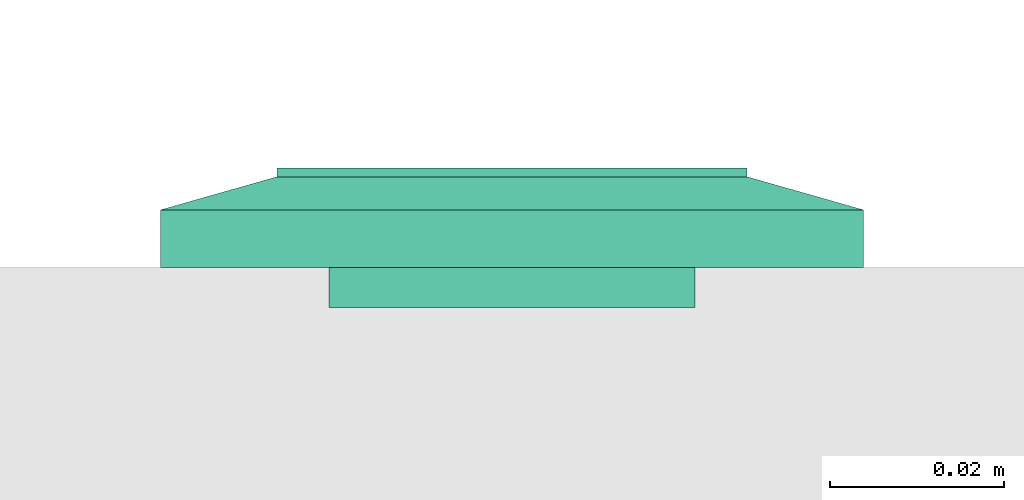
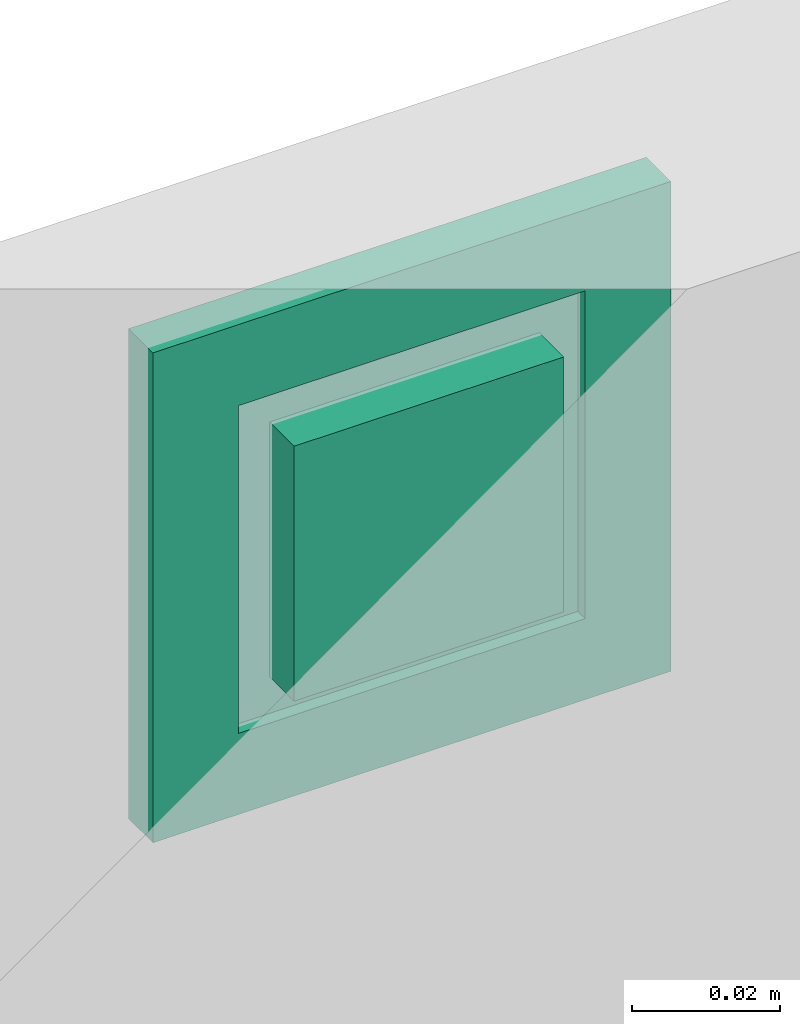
# One storey, part 89 of 153: 1 flow terminal.
"""IFC2X3 building model written with IfcOpenShell, lengths in metres."""

from ifc_helpers import new_model, entity, si_unit, converted_unit, derived_unit, direction, frame, origin, place, context, subcontext, project, spatial, faceted_brep, source, transform, mapped, type_object, type_shapes, element, save


model = new_model("IFC2X3")

# Units and contexts
model_context = context("Model", 3, precision=1e-05, world=origin(), true_north=direction((6.12303176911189e-17, 1.0)))
body_context = subcontext(model_context, "Body", "Model", "MODEL_VIEW")
ifc_project = project(units=[si_unit("LENGTHUNIT", "METRE"), si_unit("AREAUNIT", "SQUARE_METRE"), si_unit("VOLUMEUNIT", "CUBIC_METRE"), converted_unit("PLANEANGLEUNIT", "DEGREE", entity("IfcRatioMeasure", 0.0174532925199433), si_unit("PLANEANGLEUNIT", "RADIAN"), dimensions=[0, 0, 0, 0, 0, 0, 0]), si_unit("MASSUNIT", "GRAM", prefix="KILO"), derived_unit("MASSDENSITYUNIT", [(si_unit("MASSUNIT", "GRAM", prefix="KILO"), 1), (si_unit("LENGTHUNIT", "METRE"), -3)]), si_unit("TIMEUNIT", "SECOND"), si_unit("FREQUENCYUNIT", "HERTZ"), si_unit("THERMODYNAMICTEMPERATUREUNIT", "DEGREE_CELSIUS"), derived_unit("THERMALTRANSMITTANCEUNIT", [(si_unit("MASSUNIT", "GRAM", prefix="KILO"), 1), (si_unit("THERMODYNAMICTEMPERATUREUNIT", "KELVIN"), -1), (si_unit("TIMEUNIT", "SECOND"), -3)]), derived_unit("VOLUMETRICFLOWRATEUNIT", [(si_unit("LENGTHUNIT", "METRE"), 3), (si_unit("TIMEUNIT", "SECOND"), -1)]), si_unit("ELECTRICCURRENTUNIT", "AMPERE"), si_unit("ELECTRICVOLTAGEUNIT", "VOLT"), si_unit("POWERUNIT", "WATT"), si_unit("FORCEUNIT", "NEWTON"), si_unit("ILLUMINANCEUNIT", "LUX"), si_unit("LUMINOUSFLUXUNIT", "LUMEN"), si_unit("LUMINOUSINTENSITYUNIT", "CANDELA"), derived_unit("USERDEFINED", [(si_unit("MASSUNIT", "GRAM", prefix="KILO"), -1), (si_unit("LENGTHUNIT", "METRE"), -2), (si_unit("TIMEUNIT", "SECOND"), 3), (si_unit("LUMINOUSFLUXUNIT", "LUMEN"), 1)]), derived_unit("LINEARVELOCITYUNIT", [(si_unit("LENGTHUNIT", "METRE"), 1), (si_unit("TIMEUNIT", "SECOND"), -1)]), si_unit("PRESSUREUNIT", "PASCAL"), derived_unit("USERDEFINED", [(si_unit("LENGTHUNIT", "METRE"), -2), (si_unit("MASSUNIT", "GRAM", prefix="KILO"), 1), (si_unit("TIMEUNIT", "SECOND"), -2)])], contexts=[model_context])

# Site, building, storey
site_placement = place(None, origin())
site = spatial("IfcSite", under=ifc_project, at=site_placement, Name="Default", CompositionType="ELEMENT")
building_placement = place(site_placement, origin())
building = spatial("IfcBuilding", under=site, at=building_placement, CompositionType="ELEMENT")
storey_placement = place(building_placement, frame((0.0, 0.0, -4.62)))
storey = spatial("IfcBuildingStorey", under=building, at=storey_placement, Name="S02", CompositionType="ELEMENT", Elevation=-4.62)

# Flow terminal
electric_appliance_type = type_object("IfcElectricApplianceType", Name="RJ45 IP20", PredefinedType="NOTDEFINED")
shared_shape = source(origin(), body_context, "Body", "Brep", [
    faceted_brep([(0.00200000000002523, 0.0, 0.00799999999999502), (0.00400000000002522, 0.0, 0.00799999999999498), (0.00500000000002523, 0.00199999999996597, 0.00799999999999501), (0.0110000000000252, 0.00199999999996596, 0.00799999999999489), (0.0120000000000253, 0.0, 0.00799999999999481), (0.0140000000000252, 0.0, 0.00799999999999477), (0.0140000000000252, 0.00399999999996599, 0.00799999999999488), (0.00200000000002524, 0.00399999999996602, 0.00799999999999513), (0.00200000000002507, 0.0, 0.0), (0.00200000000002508, 0.00399999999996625, 0.0), (0.0140000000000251, 0.00399999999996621, 0.0), (0.0140000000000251, 0.0, 0.0), (0.0120000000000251, 0.0, 0.0), (0.0110000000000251, 0.00199999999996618, 0.0), (0.00500000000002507, 0.0019999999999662, 0.0), (0.00400000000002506, 0.0, 0.0)], [[[0, 1, 2, 3, 4, 5, 6, 7]], [[8, 9, 10, 11, 12, 13, 14, 15]], [[1, 0, 8, 15]], [[2, 1, 15, 14]], [[3, 2, 14, 13]], [[4, 3, 13, 12]], [[5, 4, 12, 11]], [[6, 5, 11, 10]], [[7, 6, 10, 9]], [[0, 7, 9, 8]]]),
    faceted_brep([(-0.0139999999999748, 0.0, 0.00799999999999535), (-0.0119999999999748, 0.0, 0.00799999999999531), (-0.0109999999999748, 0.00199999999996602, 0.00799999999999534), (-0.00499999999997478, 0.00199999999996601, 0.00799999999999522), (-0.0039999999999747, 0.0, 0.00799999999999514), (-0.00199999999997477, 0.0, 0.0079999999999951), (-0.00199999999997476, 0.00399999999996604, 0.00799999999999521), (-0.0139999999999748, 0.00399999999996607, 0.00799999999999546), (-0.0139999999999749, 0.0, 0.0), (-0.0139999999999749, 0.00399999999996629, 0.0), (-0.00199999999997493, 0.00399999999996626, 0.0), (-0.00199999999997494, 0.0, 0.0), (-0.00399999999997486, 0.0, 0.0), (-0.00499999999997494, 0.00199999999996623, 0.0), (-0.0109999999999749, 0.00199999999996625, 0.0), (-0.0119999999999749, 0.0, 0.0)], [[[0, 1, 2, 3, 4, 5, 6, 7]], [[8, 9, 10, 11, 12, 13, 14, 15]], [[1, 0, 8, 15]], [[2, 1, 15, 14]], [[3, 2, 14, 13]], [[4, 3, 13, 12]], [[5, 4, 12, 11]], [[6, 5, 11, 10]], [[7, 6, 10, 9]], [[0, 7, 9, 8]]]),
    faceted_brep([(0.0140000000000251, 0.00399999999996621, 0.0), (0.00200000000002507, 0.00399999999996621, 0.0), (0.00200000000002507, -0.00350000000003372, 0.0), (0.0140000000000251, -0.00350000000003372, 0.0), (0.0140000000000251, 0.00399999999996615, 0.00199999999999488), (0.00200000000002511, 0.00399999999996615, 0.00199999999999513), (0.00200000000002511, -0.00393859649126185, 0.00199999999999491), (0.0140000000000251, -0.00393859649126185, 0.00199999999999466), (0.0210000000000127, 0.0209999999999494, 0.00199999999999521), (-0.0209999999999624, 0.0209999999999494, 0.00199999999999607), (-0.0209999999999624, -0.0210000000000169, 0.00199999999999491), (0.0210000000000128, -0.0210000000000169, 0.00199999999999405), (-0.0139999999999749, 0.0039999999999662, 0.00199999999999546), (-0.0019999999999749, 0.0039999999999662, 0.00199999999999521), (-0.00199999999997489, -0.0039385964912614, 0.00199999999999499), (-0.0139999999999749, -0.00393859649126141, 0.00199999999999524), (0.0210000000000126, 0.0209999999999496, -0.00460000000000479), (0.0210000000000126, -0.0210000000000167, -0.00460000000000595), (-0.0209999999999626, -0.0210000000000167, -0.00460000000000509), (-0.0209999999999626, 0.0209999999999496, -0.00460000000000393), (-0.00199999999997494, 0.00399999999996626, 0.0), (-0.0139999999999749, 0.00399999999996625, 0.0), (-0.0139999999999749, -0.00350000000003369, 0.0), (-0.00199999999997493, -0.00350000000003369, 0.0)], [[[0, 1, 2, 3]], [[1, 0, 4, 5]], [[2, 1, 5, 6]], [[3, 2, 6, 7]], [[0, 3, 7, 4]], [[5, 4, 7, 6], [8, 9, 10, 11], [12, 13, 14, 15]], [[16, 17, 18, 19]], [[9, 8, 16, 19]], [[10, 9, 19, 18]], [[11, 10, 18, 17]], [[8, 11, 17, 16]], [[20, 21, 22, 23]], [[21, 20, 13, 12]], [[22, 21, 12, 15]], [[23, 22, 15, 14]], [[20, 23, 14, 13]]], outer=[[True], [True], [True], [True], [True], [False, True, False], [True], [True], [True], [True], [True], [True], [True], [True], [True], [True]]),
    faceted_brep([(0.0270000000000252, 0.026999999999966, 0.0113999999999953), (-0.0269999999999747, 0.026999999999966, 0.0113999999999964), (-0.0269999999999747, -0.0270000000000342, 0.0113999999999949), (0.0270000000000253, -0.0270000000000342, 0.0113999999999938), (0.0020000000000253, 0.00399999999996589, 0.0113999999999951), (0.0140000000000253, 0.00399999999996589, 0.0113999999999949), (0.0140000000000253, -0.00600000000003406, 0.0113999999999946), (0.0020000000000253, -0.00600000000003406, 0.0113999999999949), (-0.0139999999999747, 0.00399999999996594, 0.0113999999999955), (-0.00199999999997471, 0.00399999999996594, 0.0113999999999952), (-0.00199999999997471, -0.0060000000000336, 0.0113999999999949), (-0.0139999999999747, -0.00600000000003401, 0.0113999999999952), (0.0270000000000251, 0.0269999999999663, 0.00199999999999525), (0.0270000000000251, -0.0270000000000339, 0.00199999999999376), (-0.0269999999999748, -0.0270000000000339, 0.00199999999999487), (-0.0269999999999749, 0.0269999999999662, 0.00199999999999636), (0.0140000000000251, 0.00399999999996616, 0.00199999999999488), (0.00200000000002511, 0.00399999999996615, 0.00199999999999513), (0.00200000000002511, -0.00393859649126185, 0.00199999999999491), (0.0140000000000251, -0.00393859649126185, 0.00199999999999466), (-0.00199999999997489, 0.0039999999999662, 0.00199999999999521), (-0.0139999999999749, 0.0039999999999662, 0.00199999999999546), (-0.0139999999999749, -0.0039385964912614, 0.00199999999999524), (-0.00199999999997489, -0.0039385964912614, 0.00199999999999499)], [[[0, 1, 2, 3], [4, 5, 6, 7], [8, 9, 10, 11]], [[12, 13, 14, 15], [16, 17, 18, 19], [20, 21, 22, 23]], [[1, 0, 12, 15]], [[2, 1, 15, 14]], [[3, 2, 14, 13]], [[0, 3, 13, 12]], [[4, 17, 16, 5]], [[17, 4, 7, 18]], [[18, 7, 6, 19]], [[5, 16, 19, 6]], [[8, 21, 20, 9]], [[21, 8, 11, 22]], [[22, 11, 10, 23]], [[9, 20, 23, 10]]]),
    faceted_brep([(0.027000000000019, 0.0269999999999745, 0.00659999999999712), (-0.0269999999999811, 0.0269999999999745, 0.00659999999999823), (-0.026999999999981, -0.0270000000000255, 0.00659999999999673), (0.027000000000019, -0.0270000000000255, 0.00659999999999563), (0.040350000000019, 0.0403499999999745, 0.00659999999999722), (0.040350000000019, -0.0403500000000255, 0.00659999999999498), (-0.0403499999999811, -0.0403500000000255, 0.00659999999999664), (-0.0403499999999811, 0.0403499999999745, 0.00659999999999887), (-0.026999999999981, 0.0269999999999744, 0.0103999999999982), (0.027000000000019, 0.0269999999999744, 0.0103999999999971), (-0.026999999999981, -0.0270000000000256, 0.0103999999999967), (0.027000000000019, -0.0270000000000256, 0.0103999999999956)], [[[0, 1, 2, 3], [4, 5, 6, 7]], [[4, 7, 8, 9]], [[7, 6, 10, 8]], [[6, 5, 11, 10]], [[5, 4, 9, 11]], [[0, 9, 8, 1]], [[1, 8, 10, 2]], [[2, 10, 11, 3]], [[9, 0, 3, 11]]], outer=[[False, True], [True], [True], [True], [True], [True], [True], [True], [True]]),
    faceted_brep([(0.040350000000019, 0.0403499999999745, 0.00659999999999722), (-0.0403499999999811, 0.0403499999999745, 0.00659999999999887), (-0.0403499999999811, -0.0403500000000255, 0.00659999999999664), (0.040350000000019, -0.0403500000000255, 0.00659999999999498), (-0.0269999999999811, 0.0269999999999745, 0.00659999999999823), (0.0270000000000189, 0.0269999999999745, 0.00659999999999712), (0.0270000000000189, -0.0270000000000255, 0.00659999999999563), (-0.0269999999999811, -0.0270000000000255, 0.00659999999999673), (0.0403500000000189, 0.0403499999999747, 0.0), (0.0403500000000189, -0.0403500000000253, 0.0), (-0.0403499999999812, -0.0403500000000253, 0.0), (-0.0403499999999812, 0.0403499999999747, 0.0), (0.0270000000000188, 0.0269999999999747, 0.0), (-0.0269999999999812, 0.0269999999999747, 0.0), (-0.0269999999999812, -0.0270000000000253, 0.0), (0.0270000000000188, -0.0270000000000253, 0.0)], [[[0, 1, 2, 3], [4, 5, 6, 7]], [[8, 9, 10, 11], [12, 13, 14, 15]], [[1, 0, 8, 11]], [[2, 1, 11, 10]], [[3, 2, 10, 9]], [[0, 3, 9, 8]], [[12, 5, 4, 13]], [[13, 4, 7, 14]], [[14, 7, 6, 15]], [[5, 12, 15, 6]]]),
])
type_shapes(electric_appliance_type, [shared_shape])
flow_terminal_placement = place(building_placement, frame((52.3523946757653, -189.113069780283, -4.18699999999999), z_axis=(0.0, 1.0, 0.0), x_axis=(-1.0, 0.0, 0.0)))
element("IfcFlowTerminal", 1, at=flow_terminal_placement, inside=storey, type_object=electric_appliance_type, Name="INT_Prise RJ45:RJ45 IP20", ObjectType="INT_Prise RJ45:RJ45 IP20", context=body_context, shape_type="MappedRepresentation", body=[
    mapped(shared_shape, transform((0.0, 0.0, 0.0), scale=1.0)),
])

save(model, "model.ifc")
